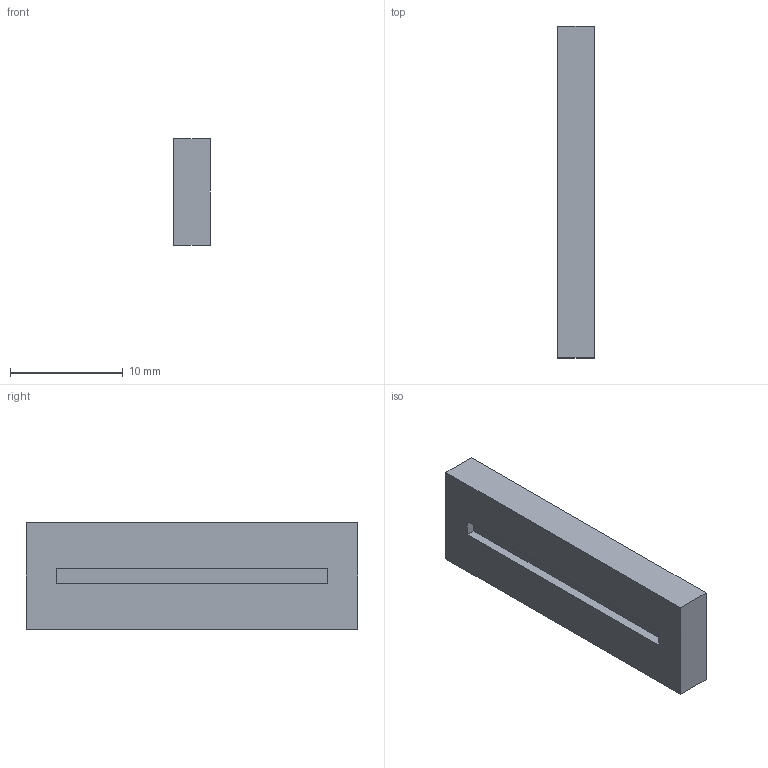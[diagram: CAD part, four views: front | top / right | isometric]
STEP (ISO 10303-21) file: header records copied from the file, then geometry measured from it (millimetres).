
FILE_DESCRIPTION(('FreeCAD Model'),'2;1');
FILE_NAME('Open CASCADE Shape Model','2026-11-08T20:38:38',('FreeCAD'),( 'FreeCAD'),'Open CASCADE STEP processor 7.8','FreeCAD','Unknown');
FILE_SCHEMA(('AUTOMOTIVE_DESIGN { 1 0 10303 214 1 1 1 1 }'));
Length unit declared in the file: millimetre
Products named in the file (1): Open CASCADE STEP translator 7.8 8
Bounding box: 3.2 x 29.4 x 9.4 mm (x, y, z)
Volume: 857.5 mm3; surface area: 841.7 mm2
Topology: 1 solids, 1 shells, 11 faces, 24 edges, 16 vertices
Faces by surface type: plane 11
Entity records: 308 total; most frequent: CARTESIAN_POINT 52, DIRECTION 48, ORIENTED_EDGE 48, EDGE_CURVE 24, LINE 24, VECTOR 24, VERTEX_POINT 16, AXIS2_PLACEMENT_3D 12
